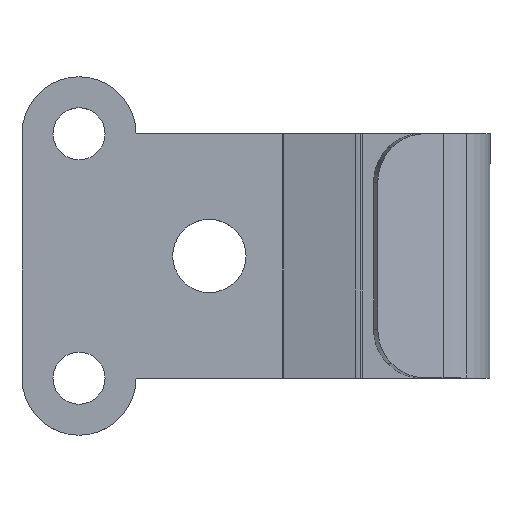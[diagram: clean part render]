
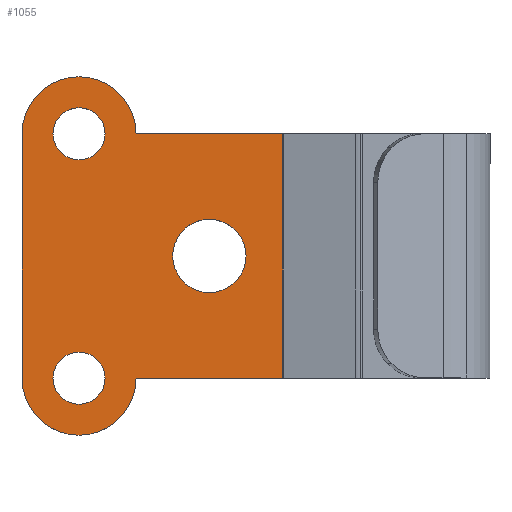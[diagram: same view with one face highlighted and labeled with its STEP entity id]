
A CAD part, top view. The second image highlights one B-rep face of the part: STEP entity #1055.
In plain terms, the highlighted planar face has unit normal (0, 0, 1).
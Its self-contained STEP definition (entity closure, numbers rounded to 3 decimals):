
#125=CARTESIAN_POINT('',(11.0,-7.0,0.75));
#126=VERTEX_POINT('',#125);
#142=CARTESIAN_POINT('',(7.5,-3.5,0.75));
#143=VERTEX_POINT('',#142);
#150=CARTESIAN_POINT('',(7.5,-7.0,0.75));
#151=DIRECTION('',(0.0,0.0,-1.0));
#152=DIRECTION('',(1.0,0.0,0.0));
#153=AXIS2_PLACEMENT_3D('',#150,#151,#152);
#154=CIRCLE('',#153,3.5);
#155=EDGE_CURVE('',#143,#126,#154,.T.);
#165=CARTESIAN_POINT('',(-11.0,-7.0,0.75));
#166=VERTEX_POINT('',#165);
#175=CARTESIAN_POINT('',(-7.5,-3.5,0.75));
#176=VERTEX_POINT('',#175);
#177=CARTESIAN_POINT('',(-7.5,-7.0,0.75));
#178=DIRECTION('',(0.0,0.0,-1.0));
#179=DIRECTION('',(1.0,0.0,0.0));
#180=AXIS2_PLACEMENT_3D('',#177,#178,#179);
#181=CIRCLE('',#180,3.5);
#182=EDGE_CURVE('',#166,#176,#181,.T.);
#293=CARTESIAN_POINT('',(9.1,-7.,0.75));
#294=VERTEX_POINT('',#293);
#310=CARTESIAN_POINT('',(5.9,-7.,0.75));
#311=VERTEX_POINT('',#310);
#318=CARTESIAN_POINT('',(7.5,-7.,0.75));
#319=DIRECTION('',(0.0,0.0,-1.0));
#320=DIRECTION('',(1.0,0.0,0.0));
#321=AXIS2_PLACEMENT_3D('',#318,#319,#320);
#322=CIRCLE('',#321,1.6);
#323=EDGE_CURVE('',#294,#311,#322,.T.);
#333=CARTESIAN_POINT('',(-5.9,-7.0,0.75));
#334=VERTEX_POINT('',#333);
#343=CARTESIAN_POINT('',(-9.1,-7.0,0.75));
#344=VERTEX_POINT('',#343);
#345=CARTESIAN_POINT('',(-7.5,-7.0,0.75));
#346=DIRECTION('',(0.0,0.0,-1.0));
#347=DIRECTION('',(1.0,0.0,0.0));
#348=AXIS2_PLACEMENT_3D('',#345,#346,#347);
#349=CIRCLE('',#348,1.6);
#350=EDGE_CURVE('',#344,#334,#349,.T.);
#511=CARTESIAN_POINT('',(-7.5,5.5,0.75));
#512=VERTEX_POINT('',#511);
#520=CARTESIAN_POINT('',(7.5,5.5,0.75));
#521=VERTEX_POINT('',#520);
#522=CARTESIAN_POINT('',(7.5,5.5,0.75));
#523=DIRECTION('',(-1.0,0.0,0.0));
#524=VECTOR('',#523,15.0);
#525=LINE('',#522,#524);
#526=EDGE_CURVE('',#521,#512,#525,.T.);
#587=CARTESIAN_POINT('',(2.25,1.0,0.75));
#588=VERTEX_POINT('',#587);
#604=CARTESIAN_POINT('',(-2.25,1.,0.75));
#605=VERTEX_POINT('',#604);
#612=CARTESIAN_POINT('',(0.0,1.0,0.75));
#613=DIRECTION('',(0.0,0.0,-1.0));
#614=DIRECTION('',(1.0,0.0,0.0));
#615=AXIS2_PLACEMENT_3D('',#612,#613,#614);
#616=CIRCLE('',#615,2.25);
#617=EDGE_CURVE('',#588,#605,#616,.T.);
#628=CARTESIAN_POINT('',(0.0,1.0,0.75));
#629=DIRECTION('',(0.0,0.0,-1.0));
#630=DIRECTION('',(1.0,0.0,0.0));
#631=AXIS2_PLACEMENT_3D('',#628,#629,#630);
#632=CIRCLE('',#631,2.25);
#633=EDGE_CURVE('',#605,#588,#632,.T.);
#769=CARTESIAN_POINT('',(-7.5,-3.5,0.75));
#770=DIRECTION('',(0.0,1.0,0.0));
#771=VECTOR('',#770,9.);
#772=LINE('',#769,#771);
#773=EDGE_CURVE('',#176,#512,#772,.T.);
#904=CARTESIAN_POINT('',(7.5,5.5,0.75));
#905=DIRECTION('',(0.0,-1.0,0.0));
#906=VECTOR('',#905,9.);
#907=LINE('',#904,#906);
#908=EDGE_CURVE('',#521,#143,#907,.T.);
#995=CARTESIAN_POINT('',(0.,-0.732,0.75));
#996=DIRECTION('',(0.0,0.0,1.0));
#997=DIRECTION('',(1.0,0.0,0.0));
#998=AXIS2_PLACEMENT_3D('',#995,#996,#997);
#999=PLANE('',#998);
#1000=ORIENTED_EDGE('',*,*,#526,.T.);
#1001=ORIENTED_EDGE('',*,*,#773,.F.);
#1002=ORIENTED_EDGE('',*,*,#182,.F.);
#1003=CARTESIAN_POINT('',(-7.5,-10.5,0.75));
#1004=VERTEX_POINT('',#1003);
#1005=CARTESIAN_POINT('',(-7.5,-7.0,0.75));
#1006=DIRECTION('',(0.0,0.0,-1.0));
#1007=DIRECTION('',(1.0,0.0,0.0));
#1008=AXIS2_PLACEMENT_3D('',#1005,#1006,#1007);
#1009=CIRCLE('',#1008,3.5);
#1010=EDGE_CURVE('',#1004,#166,#1009,.T.);
#1011=ORIENTED_EDGE('',*,*,#1010,.F.);
#1012=CARTESIAN_POINT('',(7.5,-10.5,0.75));
#1013=VERTEX_POINT('',#1012);
#1014=CARTESIAN_POINT('',(7.5,-10.5,0.75));
#1015=DIRECTION('',(-1.0,0.0,0.0));
#1016=VECTOR('',#1015,15.0);
#1017=LINE('',#1014,#1016);
#1018=EDGE_CURVE('',#1013,#1004,#1017,.T.);
#1019=ORIENTED_EDGE('',*,*,#1018,.F.);
#1020=CARTESIAN_POINT('',(7.5,-7.0,0.75));
#1021=DIRECTION('',(0.0,0.0,-1.0));
#1022=DIRECTION('',(1.0,0.0,0.0));
#1023=AXIS2_PLACEMENT_3D('',#1020,#1021,#1022);
#1024=CIRCLE('',#1023,3.5);
#1025=EDGE_CURVE('',#126,#1013,#1024,.T.);
#1026=ORIENTED_EDGE('',*,*,#1025,.F.);
#1027=ORIENTED_EDGE('',*,*,#155,.F.);
#1028=ORIENTED_EDGE('',*,*,#908,.F.);
#1029=EDGE_LOOP('',(#1000,#1001,#1002,#1011,#1019,#1026,#1027,#1028));
#1030=FACE_OUTER_BOUND('',#1029,.T.);
#1031=ORIENTED_EDGE('',*,*,#617,.T.);
#1032=ORIENTED_EDGE('',*,*,#633,.T.);
#1033=EDGE_LOOP('',(#1031,#1032));
#1034=FACE_BOUND('',#1033,.T.);
#1035=ORIENTED_EDGE('',*,*,#323,.T.);
#1036=CARTESIAN_POINT('',(7.5,-7.,0.75));
#1037=DIRECTION('',(0.0,0.0,-1.0));
#1038=DIRECTION('',(1.0,0.0,0.0));
#1039=AXIS2_PLACEMENT_3D('',#1036,#1037,#1038);
#1040=CIRCLE('',#1039,1.6);
#1041=EDGE_CURVE('',#311,#294,#1040,.T.);
#1042=ORIENTED_EDGE('',*,*,#1041,.T.);
#1043=EDGE_LOOP('',(#1035,#1042));
#1044=FACE_BOUND('',#1043,.T.);
#1045=CARTESIAN_POINT('',(-7.5,-7.0,0.75));
#1046=DIRECTION('',(0.0,0.0,-1.0));
#1047=DIRECTION('',(1.0,0.0,0.0));
#1048=AXIS2_PLACEMENT_3D('',#1045,#1046,#1047);
#1049=CIRCLE('',#1048,1.6);
#1050=EDGE_CURVE('',#334,#344,#1049,.T.);
#1051=ORIENTED_EDGE('',*,*,#1050,.T.);
#1052=ORIENTED_EDGE('',*,*,#350,.T.);
#1053=EDGE_LOOP('',(#1051,#1052));
#1054=FACE_BOUND('',#1053,.T.);
#1055=ADVANCED_FACE('',(#1030,#1034,#1044,#1054),#999,.T.);
